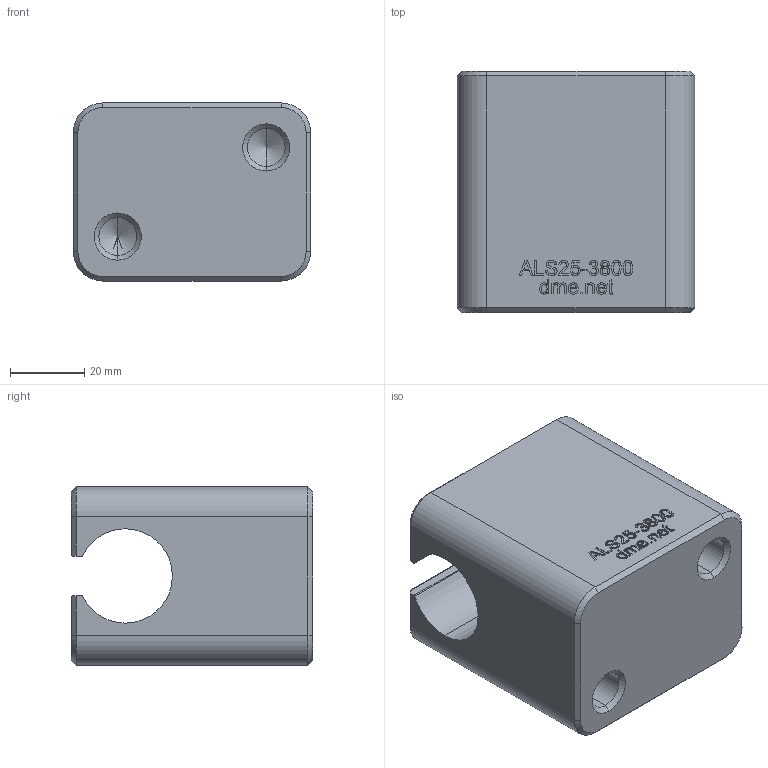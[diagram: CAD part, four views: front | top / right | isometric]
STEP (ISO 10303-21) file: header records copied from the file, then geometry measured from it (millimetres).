
FILE_DESCRIPTION (( 'STEP AP203' ), '1' );
FILE_NAME ('ALS25-3800.STEP', '2021-01-11T14:54:21', ( '' ), ( '' ), 'SwSTEP 2.0', 'SolidWorks 2020', '' );
FILE_SCHEMA (( 'CONFIG_CONTROL_DESIGN' ));
Length unit declared in the file: millimetre
Products named in the file (1): ALS25-3800
Bounding box: 64 x 65 x 48 mm (x, y, z)
Volume: 158530.5 mm3; surface area: 23658.8 mm2
Topology: 1 solids, 1 shells, 287 faces, 756 edges, 494 vertices
Faces by surface type: bspline 129, plane 127, cone 16, cylinder 15
Entity records: 15795 total; most frequent: CARTESIAN_POINT 9520, ORIENTED_EDGE 1504, DIRECTION 844, EDGE_CURVE 752, VERTEX_POINT 494, LINE 450, VECTOR 450, EDGE_LOOP 314
